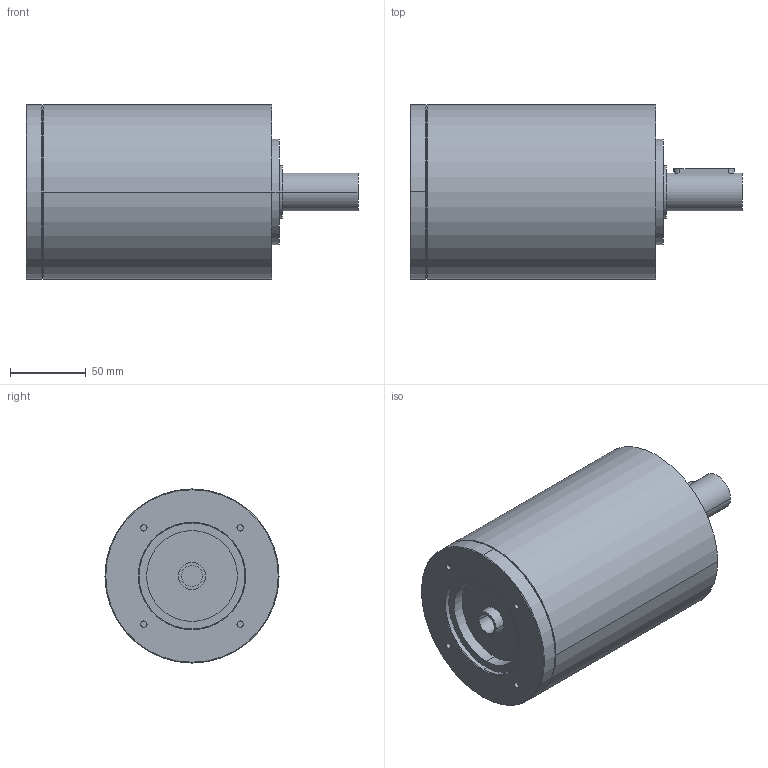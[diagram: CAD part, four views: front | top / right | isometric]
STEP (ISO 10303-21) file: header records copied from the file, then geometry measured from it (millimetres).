
FILE_DESCRIPTION(('CoCreate Modeling STEP Export'),'2;1');
FILE_NAME('GPR125_ig-9-12-16-20-28-35_25_B14_14_P15.stp','2014-08-26T14:09:44',(''),(''),'CoCreate Modeling STEP processor for AP214 (Solid Model)','CoCreate Modeling 16.00C 25-Feb-2009 (C) Parametric Technology GmbH','');
FILE_SCHEMA(('AUTOMOTIVE_DESIGN { 1 0 10303 214 1 1 1 1 }'));
Length unit declared in the file: millimetre
Products named in the file (2): GPR125_ig-9-12-16-20-28-35_25_B14_14_P15
Assembly tree (1 placements, depth 2):
  GPR125_ig-9-12-16-20-28-35_25_B14_14_P15
    GPR125_ig-9-12-16-20-28-35_25_B14_14_P15
Bounding box: 219.4 x 115 x 115 mm (x, y, z)
Volume: 1690247.5 mm3; surface area: 92105.1 mm2
Topology: 1 solids, 1 shells, 69 faces, 180 edges, 128 vertices
Faces by surface type: cylinder 38, plane 21, cone 10
Entity records: 1790 total; most frequent: ORIENTED_EDGE 356, CARTESIAN_POINT 336, DIRECTION 226, EDGE_CURVE 178, VERTEX_POINT 128, AXIS2_PLACEMENT_3D 86, EDGE_LOOP 86, FACE_OUTER_BOUND 69
